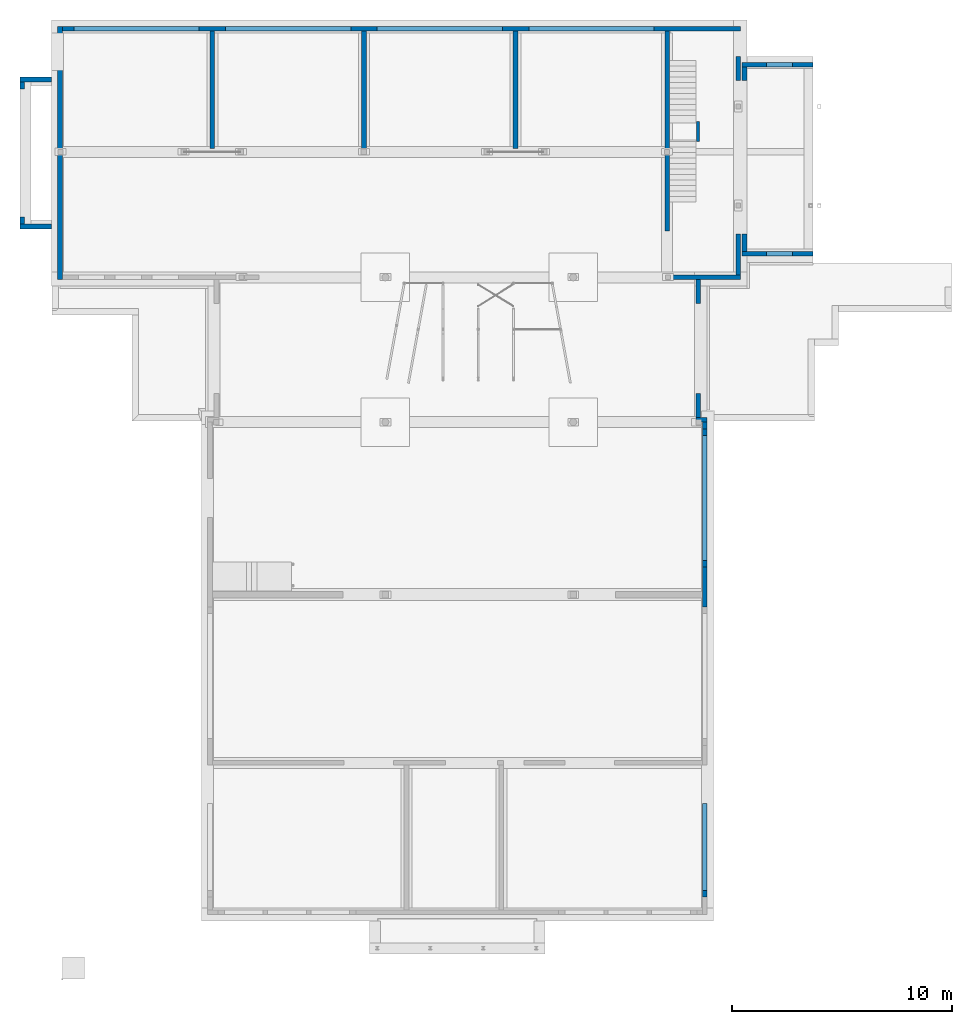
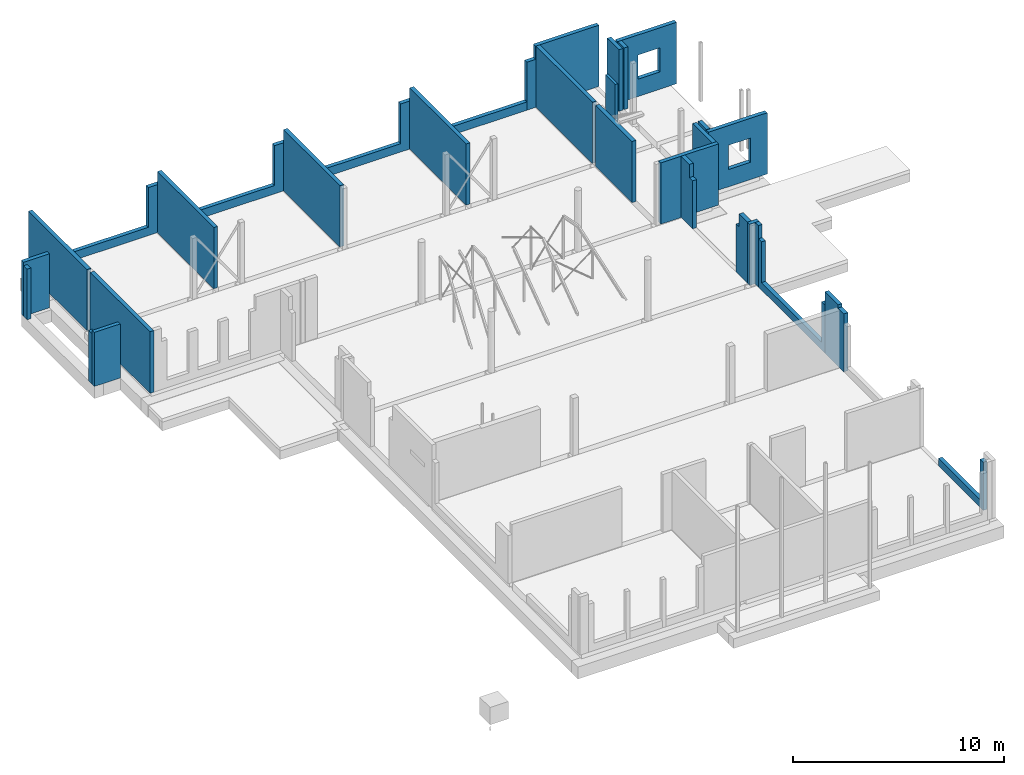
# One storey, part 15 of 17: 28 walls, 11 openings.
"""IFC2X3 building model written with IfcOpenShell, lengths in millimetres."""

from ifc_helpers import new_model, entity, si_unit, converted_unit, derived_unit, direction, frame, frame_2d, origin, origin_2d_with_axis, place, context, subcontext, project, spatial, polyline, rectangle, extrude, clip, bounded_halfspace, faceted_brep, material, layer, layer_set, layer_usage, type_object, element, save


model = new_model("IFC2X3")

# Units and contexts
model_context = context("Model", 3, precision=0.01, world=origin(), true_north=direction((6.123031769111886e-17, 1.0)))
body_context = subcontext(model_context, "Body", "Model", "MODEL_VIEW")
ifc_project = project(units=[si_unit("LENGTHUNIT", "METRE", prefix="MILLI"), si_unit("AREAUNIT", "SQUARE_METRE", prefix="MILLI"), si_unit("VOLUMEUNIT", "CUBIC_METRE"), converted_unit("PLANEANGLEUNIT", "DEGREE", entity("IfcPlaneAngleMeasure", 0.017453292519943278), si_unit("PLANEANGLEUNIT", "RADIAN"), dimensions=[0, 0, 0, 0, 0, 0, 0]), si_unit("MASSUNIT", "GRAM", prefix="KILO"), derived_unit("MASSDENSITYUNIT", [(si_unit("MASSUNIT", "GRAM", prefix="KILO"), 1), (si_unit("LENGTHUNIT", "METRE"), -3)]), derived_unit("IONCONCENTRATIONUNIT", [(si_unit("MASSUNIT", "GRAM", prefix="KILO"), 1), (si_unit("LENGTHUNIT", "METRE"), -3)]), derived_unit("MOMENTOFINERTIAUNIT", [(si_unit("LENGTHUNIT", "METRE"), 4)]), si_unit("TIMEUNIT", "SECOND"), si_unit("FREQUENCYUNIT", "HERTZ"), si_unit("THERMODYNAMICTEMPERATUREUNIT", "DEGREE_CELSIUS"), derived_unit("THERMALTRANSMITTANCEUNIT", [(si_unit("MASSUNIT", "GRAM", prefix="KILO"), 1), (si_unit("THERMODYNAMICTEMPERATUREUNIT", "KELVIN"), -1), (si_unit("TIMEUNIT", "SECOND"), -3)]), derived_unit("THERMALCONDUCTANCEUNIT", [(si_unit("MASSUNIT", "GRAM", prefix="KILO"), 1), (si_unit("THERMODYNAMICTEMPERATUREUNIT", "KELVIN"), -1), (si_unit("TIMEUNIT", "SECOND"), -3), (si_unit("LENGTHUNIT", "METRE"), 1)]), derived_unit("VOLUMETRICFLOWRATEUNIT", [(si_unit("LENGTHUNIT", "METRE", prefix="DECI"), 3), (si_unit("TIMEUNIT", "SECOND"), -1)]), derived_unit("MASSFLOWRATEUNIT", [(si_unit("MASSUNIT", "GRAM", prefix="KILO"), 1), (si_unit("TIMEUNIT", "SECOND"), -1)]), derived_unit("ROTATIONALFREQUENCYUNIT", [(si_unit("TIMEUNIT", "SECOND"), -1)]), si_unit("ELECTRICCURRENTUNIT", "AMPERE"), si_unit("ELECTRICVOLTAGEUNIT", "VOLT"), si_unit("POWERUNIT", "WATT"), si_unit("FORCEUNIT", "NEWTON", prefix="KILO"), si_unit("ILLUMINANCEUNIT", "LUX"), si_unit("LUMINOUSFLUXUNIT", "LUMEN"), si_unit("LUMINOUSINTENSITYUNIT", "CANDELA"), si_unit("ENERGYUNIT", "JOULE"), derived_unit("USERDEFINED", [(si_unit("MASSUNIT", "GRAM", prefix="KILO"), -1), (si_unit("LENGTHUNIT", "METRE"), -2), (si_unit("TIMEUNIT", "SECOND"), 3), (si_unit("LUMINOUSFLUXUNIT", "LUMEN"), 1)]), derived_unit("USERDEFINED", [(si_unit("MASSUNIT", "GRAM", prefix="KILO"), 1), (si_unit("TIMEUNIT", "SECOND"), -3), (si_unit("LENGTHUNIT", "METRE"), 3), (si_unit("ELECTRICCURRENTUNIT", "AMPERE"), -2)]), derived_unit("SOUNDPOWERUNIT", [(si_unit("MASSUNIT", "GRAM", prefix="KILO"), 1), (si_unit("TIMEUNIT", "SECOND"), -3), (si_unit("LENGTHUNIT", "METRE"), 2)]), derived_unit("SOUNDPRESSUREUNIT", [(si_unit("MASSUNIT", "GRAM", prefix="KILO"), 1), (si_unit("LENGTHUNIT", "METRE"), -1), (si_unit("TIMEUNIT", "SECOND"), -2)]), derived_unit("LINEARVELOCITYUNIT", [(si_unit("LENGTHUNIT", "METRE"), 1), (si_unit("TIMEUNIT", "SECOND"), -1)]), si_unit("PRESSUREUNIT", "PASCAL"), derived_unit("USERDEFINED", [(si_unit("MASSUNIT", "GRAM", prefix="KILO"), 1), (si_unit("LENGTHUNIT", "METRE"), -2), (si_unit("TIMEUNIT", "SECOND"), -2)]), derived_unit("LINEARFORCEUNIT", [(si_unit("MASSUNIT", "GRAM", prefix="KILO"), 1), (si_unit("TIMEUNIT", "SECOND"), -2)]), derived_unit("PLANARFORCEUNIT", [(si_unit("MASSUNIT", "GRAM", prefix="KILO"), 1), (si_unit("LENGTHUNIT", "METRE"), -1), (si_unit("TIMEUNIT", "SECOND"), -2)]), derived_unit("SPECIFICHEATCAPACITYUNIT", [(si_unit("THERMODYNAMICTEMPERATUREUNIT", "KELVIN"), -1), (si_unit("LENGTHUNIT", "METRE"), 2), (si_unit("TIMEUNIT", "SECOND"), -2)]), derived_unit("HEATFLUXDENSITYUNIT", [(si_unit("MASSUNIT", "GRAM", prefix="KILO"), 1), (si_unit("TIMEUNIT", "SECOND"), -3)]), derived_unit("HEATINGVALUEUNIT", [(si_unit("LENGTHUNIT", "METRE"), 2), (si_unit("TIMEUNIT", "SECOND"), -2)]), derived_unit("VAPORPERMEABILITYUNIT", [(si_unit("LENGTHUNIT", "METRE"), -1), (si_unit("TIMEUNIT", "SECOND"), 1)]), derived_unit("DYNAMICVISCOSITYUNIT", [(si_unit("MASSUNIT", "GRAM", prefix="KILO"), 1), (si_unit("TIMEUNIT", "SECOND"), -1), (si_unit("LENGTHUNIT", "METRE"), -1)]), derived_unit("THERMALEXPANSIONCOEFFICIENTUNIT", [(si_unit("THERMODYNAMICTEMPERATUREUNIT", "KELVIN"), -1)]), derived_unit("MODULUSOFELASTICITYUNIT", [(si_unit("MASSUNIT", "GRAM", prefix="KILO"), 1), (si_unit("LENGTHUNIT", "METRE"), -1), (si_unit("TIMEUNIT", "SECOND"), -2)]), derived_unit("ISOTHERMALMOISTURECAPACITYUNIT", [(si_unit("MASSUNIT", "GRAM", prefix="KILO"), -1), (si_unit("LENGTHUNIT", "METRE"), 3)]), derived_unit("MOISTUREDIFFUSIVITYUNIT", [(si_unit("TIMEUNIT", "SECOND"), -1), (si_unit("LENGTHUNIT", "METRE"), 2)]), derived_unit("MASSPERLENGTHUNIT", [(si_unit("MASSUNIT", "GRAM", prefix="KILO"), 1), (si_unit("LENGTHUNIT", "METRE"), -1)]), derived_unit("THERMALRESISTANCEUNIT", [(si_unit("MASSUNIT", "GRAM", prefix="KILO"), -1), (si_unit("TIMEUNIT", "SECOND"), 3), (si_unit("THERMODYNAMICTEMPERATUREUNIT", "KELVIN"), 1)]), derived_unit("ACCELERATIONUNIT", [(si_unit("LENGTHUNIT", "METRE"), 1), (si_unit("TIMEUNIT", "SECOND"), -2)]), derived_unit("ANGULARVELOCITYUNIT", [(si_unit("TIMEUNIT", "SECOND"), -1), (si_unit("PLANEANGLEUNIT", "RADIAN"), 1)]), derived_unit("LINEARSTIFFNESSUNIT", [(si_unit("MASSUNIT", "GRAM", prefix="KILO"), 1), (si_unit("TIMEUNIT", "SECOND"), -2)]), derived_unit("WARPINGCONSTANTUNIT", [(si_unit("LENGTHUNIT", "METRE"), 6)]), derived_unit("LINEARMOMENTUNIT", [(si_unit("MASSUNIT", "GRAM", prefix="KILO"), 1), (si_unit("LENGTHUNIT", "METRE"), 1), (si_unit("TIMEUNIT", "SECOND"), -2)]), derived_unit("TORQUEUNIT", [(si_unit("MASSUNIT", "GRAM", prefix="KILO"), 1), (si_unit("LENGTHUNIT", "METRE"), 2), (si_unit("TIMEUNIT", "SECOND"), -2)])], contexts=[model_context])

# Site, building, storey
site_placement = place(None, origin())
site = spatial("IfcSite", under=ifc_project, at=site_placement, Name="Default", CompositionType="ELEMENT")
building_placement = place(site_placement, origin())
building = spatial("IfcBuilding", under=site, at=building_placement, CompositionType="ELEMENT")
storey_placement = place(building_placement, frame((0.0, 0.0, -70.0)))
storey = spatial("IfcBuildingStorey", under=building, at=storey_placement, Name="F1 begg (bk ruwe vloer)", CompositionType="ELEMENT", Elevation=-69.99999999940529)

# Walls
ifc_material_1 = material(Name="Kalkzandsteen, lijmwerk CS12")
ifc_layer_1 = layer(ifc_material_1, 214.0)
ifc_layer_set_1 = layer_set([ifc_layer_1], Name="Basic Wall:bt_kzst 214")
ifc_layer_usage_1 = layer_usage(ifc_layer_set_1, "AXIS2", "POSITIVE", -107.0)
wall_type_1 = type_object("IfcWallType", Name="Basic Wall:bt_kzst 214", PredefinedType="STANDARD", material=ifc_layer_set_1)
wall_1_placement = place(storey_placement, frame((-107.0, 43358.57320506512, 0.0), z_axis=(0.0, 0.0, 1.0), x_axis=(0.0, -1.0, 0.0)))
element("IfcWallStandardCase", 1, at=wall_1_placement, inside=storey, type_object=wall_type_1, material=ifc_layer_usage_1, Name="Basic Wall:bt_kzst 214", ObjectType="Basic Wall:bt_kzst 214", context=body_context, shape_type="SweptSolid", body=[
    extrude(rectangle(XDim=5563.999999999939, YDim=214.0, at=frame_2d((2781.9999999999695, 7.105427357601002e-15), x_axis=(-1.0, 0.0))), origin(), (0.0, 0.0, 1.0), 3539.9999999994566),
])
ifc_layer_usage_2 = layer_usage(ifc_layer_set_1, "AXIS2", "NEGATIVE", 107.0)
wall_2_placement = place(storey_placement, frame((6825.000781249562, 43144.57320506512, 0.0), z_axis=(0.0, 0.0, 1.0), x_axis=(0.0, -1.0, 0.0)))
element("IfcWallStandardCase", 2, at=wall_2_placement, inside=storey, type_object=wall_type_1, material=ifc_layer_usage_2, Name="Basic Wall:bt_kzst 214", ObjectType="Basic Wall:bt_kzst 214", context=body_context, shape_type="SweptSolid", body=[
    extrude(rectangle(XDim=5349.348028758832, YDim=213.999999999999, at=frame_2d((2674.674014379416, 0.0), x_axis=(-1.0, 0.0))), origin(), (0.0, 0.0, 1.0), 3539.9999999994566),
])
wall_3_placement = place(storey_placement, frame((13725.000781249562, 43144.57320506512, 0.0), z_axis=(0.0, 0.0, 1.0), x_axis=(0.0, -1.0, 0.0)))
element("IfcWallStandardCase", 3, at=wall_3_placement, inside=storey, type_object=wall_type_1, material=ifc_layer_usage_2, Name="Basic Wall:bt_kzst 214", ObjectType="Basic Wall:bt_kzst 214", context=body_context, shape_type="SweptSolid", body=[
    extrude(rectangle(XDim=5349.348028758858, YDim=213.999999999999, at=frame_2d((2674.674014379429, 0.0), x_axis=(-1.0, 0.0))), origin(), (0.0, 0.0, 1.0), 3539.9999999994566),
])
wall_4_placement = place(storey_placement, frame((20624.984654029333, 43144.57320506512, 0.0), z_axis=(0.0, 0.0, 1.0), x_axis=(0.0, -1.0, 0.0)))
element("IfcWallStandardCase", 4, at=wall_4_placement, inside=storey, type_object=wall_type_1, material=ifc_layer_usage_2, Name="Basic Wall:bt_kzst 214", ObjectType="Basic Wall:bt_kzst 214", context=body_context, shape_type="SweptSolid", body=[
    extrude(rectangle(XDim=5349.348028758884, YDim=214.00000000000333, at=frame_2d((2674.674014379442, 0.0), x_axis=(-1.0, 0.0))), origin(), (0.0, 0.0, 1.0), 3539.9999999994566),
])

# Wall, openings
wall_5_placement = place(storey_placement, frame((26925.411850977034, 43251.5732050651, 0.0)))
wall_5 = element("IfcWallStandardCase", 5, at=wall_5_placement, inside=storey, type_object=wall_type_1, material=ifc_layer_usage_2, Name="Basic Wall:bt_kzst 214", ObjectType="Basic Wall:bt_kzst 214", context=body_context, shape_type="SweptSolid", body=[
    extrude(rectangle(XDim=3938.5653439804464, YDim=214.00000000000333, at=frame_2d((1969.2826719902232, 0.0), x_axis=(-1.0, 0.0))), origin(), (0.0, 0.0, 1.0), 3539.9999999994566),
])
opening_1_placement = place(wall_5_placement, origin())
element("IfcOpeningElement", 6, at=opening_1_placement, cuts=wall_5, Name="Basic Wall:bt_kzst 214", ObjectType="Opening", context=body_context, shape_type="SweptSolid", body=[
    extrude(rectangle(XDim=1222.00000000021, YDim=470.29999999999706, at=frame_2d((-2.8421709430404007e-13, 0.0), x_axis=(1.0, 0.0))), frame((235.14999999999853, -107.0, 3389.0), z_axis=(0.0, 1.0, 0.0), x_axis=(0.0, 0.0, -1.0)), (0.0, 0.0, 1.0), 214.00000000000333),
])
opening_2_placement = place(wall_5_placement, origin())
element("IfcOpeningElement", 7, at=opening_2_placement, cuts=wall_5, Name="Basic Wall:bt_kzst 214", ObjectType="Opening", context=body_context, shape_type="SweptSolid", body=[
    extrude(rectangle(XDim=2295.0, YDim=5700.301691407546, at=frame_2d((-2.2737367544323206e-12, -1.1368683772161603e-13), x_axis=(0.0, 1.0))), frame((-2848.706021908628, -1631.0, 1630.5000000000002), z_axis=(0.0, 1.0, 0.0), x_axis=(1.0, 0.0, 0.0)), (0.0, 0.0, 1.0), 3048.0),
])

# Walls
wall_6_placement = place(storey_placement, frame((27524.979520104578, 43144.57320506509, 0.0), z_axis=(0.0, 0.0, 1.0), x_axis=(0.0, -1.0, 0.0)))
element("IfcWallStandardCase", 8, at=wall_6_placement, inside=storey, type_object=wall_type_1, material=ifc_layer_usage_2, Name="Basic Wall:bt_kzst 214", ObjectType="Basic Wall:bt_kzst 214", context=body_context, shape_type="SweptSolid", body=[
    extrude(rectangle(XDim=5350.000000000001, YDim=214.00000000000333, at=frame_2d((2675.0000000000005, 0.0), x_axis=(-1.0, 0.0))), origin(), (0.0, 0.0, 1.0), 3539.9999999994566),
])
wall_7_placement = place(storey_placement, frame((29338.98577009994, 25451.57781815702, 0.0), z_axis=(0.0, 0.0, 1.0), x_axis=(-1.0, 0.0, 0.0)))
element("IfcWallStandardCase", 9, at=wall_7_placement, inside=storey, type_object=wall_type_1, material=ifc_layer_usage_1, Name="Basic Wall:bt_kzst 214", ObjectType="Basic Wall:bt_kzst 214", context=body_context, shape_type="SweptSolid", body=[
    extrude(rectangle(XDim=514.0067257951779, YDim=214.00000000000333, at=frame_2d((257.00336289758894, 0.0), x_axis=(-1.0, 0.0))), origin(), (0.0, 0.0, 1.0), 3539.9999999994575),
])

# Wall, opening
wall_8_placement = place(storey_placement, frame((28931.979776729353, 25558.57745194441, 0.0), z_axis=(0.0, 0.0, 1.0), x_axis=(3.4225477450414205e-06, 1.0, 0.0)))
wall_8 = element("IfcWallStandardCase", 10, at=wall_8_placement, inside=storey, type_object=wall_type_1, material=ifc_layer_usage_1, Name="Basic Wall:bt_kzst 214", ObjectType="Basic Wall:bt_kzst 214", context=body_context, shape_type="SweptSolid", body=[
    extrude(rectangle(XDim=1082.7513124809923, YDim=214.0000000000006, at=frame_2d((541.3756562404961, -8.881784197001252e-13), x_axis=(-1.0, 0.0))), origin(), (0.0, 0.0, 1.0), 3539.9999999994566),
])
opening_3_placement = place(wall_8_placement, origin())
element("IfcOpeningElement", 11, at=opening_3_placement, cuts=wall_8, Name="Basic Wall:bt_kzst 214", ObjectType="Opening", context=body_context, shape_type="SweptSolid", body=[
    extrude(rectangle(XDim=762.0000000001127, YDim=299.01434239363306, at=origin_2d_with_axis()), frame((933.2441412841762, -107.0, 3159.0), z_axis=(0.0, 1.0, 0.0), x_axis=(0.0, 0.0, -1.0)), (0.0, 0.0, 1.0), 213.999999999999),
])

# Walls
wall_9_placement = place(storey_placement, frame((27712.885853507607, 31937.57320506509, 0.0)))
element("IfcWallStandardCase", 12, at=wall_9_placement, inside=storey, type_object=wall_type_1, material=ifc_layer_usage_1, Name="Basic Wall:bt_kzst 214", ObjectType="Basic Wall:bt_kzst 214", context=body_context, shape_type="SweptSolid", body=[
    extrude(rectangle(XDim=3151.0913414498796, YDim=214.00000000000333, at=frame_2d((1575.5456707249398, -1.2079226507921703e-13), x_axis=(-1.0, 0.0))), origin(), (0.0, 0.0, 1.0), 3539.9999999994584),
])
wall_10_placement = place(storey_placement, frame((30756.97719495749, 32044.573205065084, 0.0), z_axis=(0.0, 0.0, 1.0), x_axis=(0.0, 1.0, 0.0)))
element("IfcWallStandardCase", 13, at=wall_10_placement, inside=storey, type_object=wall_type_1, material=ifc_layer_usage_1, Name="Basic Wall:bt_kzst 214", ObjectType="Basic Wall:bt_kzst 214", context=body_context, shape_type="SweptSolid", body=[
    extrude(rectangle(XDim=1857.758566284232, YDim=214.00000000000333, at=frame_2d((928.879283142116, 1.4210854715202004e-14), x_axis=(-1.0, 0.0))), origin(), (0.0, 0.0, 1.0), 3539.9999999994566),
])
wall_11_placement = place(storey_placement, frame((29231.985770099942, 25044.2323681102, 0.0), z_axis=(0.0, 0.0, 1.0), x_axis=(0.0, 1.0, 0.0)))
element("IfcWallStandardCase", 14, at=wall_11_placement, inside=storey, type_object=wall_type_1, material=ifc_layer_usage_1, Name="Basic Wall:bt_kzst 214", ObjectType="Basic Wall:bt_kzst 214", context=body_context, shape_type="SweptSolid", body=[
    extrude(rectangle(XDim=300.34545004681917, YDim=214.00000000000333, at=frame_2d((150.17272502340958, 0.0), x_axis=(-1.0, 0.0))), origin(), (0.0, 0.0, 1.0), 3539.9999999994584),
])
wall_12_placement = place(storey_placement, frame((27524.979520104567, 37494.57320506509, 0.0), z_axis=(0.0, 0.0, 1.0), x_axis=(0.0, -1.0, 0.0)))
element("IfcWallStandardCase", 15, at=wall_12_placement, inside=storey, type_object=wall_type_1, material=ifc_layer_usage_2, Name="Basic Wall:bt_kzst 214", ObjectType="Basic Wall:bt_kzst 214", context=body_context, shape_type="SweptSolid", body=[
    extrude(rectangle(XDim=3450.001488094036, YDim=214.00000000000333, at=frame_2d((1725.000744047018, 6.252776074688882e-13), x_axis=(-1.0, 0.0))), origin(), (0.0, 0.0, 1.0), 3539.9999999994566),
])
wall_13_placement = place(storey_placement, frame((-107.0, 37494.573205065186, 0.0), z_axis=(0.0, 0.0, 1.0), x_axis=(0.0, -1.0, 0.0)))
element("IfcWallStandardCase", 16, at=wall_13_placement, inside=storey, type_object=wall_type_1, material=ifc_layer_usage_1, Name="Basic Wall:bt_kzst 214", ObjectType="Basic Wall:bt_kzst 214", context=body_context, shape_type="SweptSolid", body=[
    extrude(rectangle(XDim=5664.0000399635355, YDim=214.0, at=frame_2d((2832.0000199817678, 7.105427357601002e-15), x_axis=(-1.0, 0.0))), origin(), (0.0, 0.0, 1.0), 3559.999999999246),
])

# Wall, opening
wall_14_placement = place(storey_placement, frame((28931.982072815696, 30745.545061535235, 0.0), z_axis=(0.0, 0.0, 1.0), x_axis=(1.2834553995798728e-06, 1.0, 0.0)))
wall_14 = element("IfcWallStandardCase", 17, at=wall_14_placement, inside=storey, type_object=wall_type_1, material=ifc_layer_usage_1, Name="Basic Wall:bt_kzst 214", ObjectType="Basic Wall:bt_kzst 214", context=body_context, shape_type="SweptSolid", body=[
    extrude(rectangle(XDim=1085.0282808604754, YDim=213.9999999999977, at=frame_2d((542.5141404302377, -6.465938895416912e-13), x_axis=(-1.0, 0.0))), origin(), (0.0, 0.0, 1.0), 3539.9999999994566),
])
opening_4_placement = place(wall_14_placement, origin())
element("IfcOpeningElement", 18, at=opening_4_placement, cuts=wall_14, Name="Basic Wall:bt_kzst 214", ObjectType="Opening", context=body_context, shape_type="SweptSolid", body=[
    extrude(rectangle(XDim=762.0000000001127, YDim=300.9666210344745, at=frame_2d((0.0, -2.1600499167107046e-12), x_axis=(1.0, 0.0))), frame((150.4833105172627, -107.0, 3159.0), z_axis=(0.0, 1.0, 0.0), x_axis=(0.0, 0.0, -1.0)), (0.0, 0.0, 1.0), 214.00000000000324),
])

# Walls
wall_15_placement = place(storey_placement, frame((29231.98577009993, 16938.625570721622, 0.0), z_axis=(0.0, 0.0, 1.0), x_axis=(0.0, 1.0, 0.0)))
element("IfcWallStandardCase", 19, at=wall_15_placement, inside=storey, type_object=wall_type_1, material=ifc_layer_usage_1, Name="Basic Wall:bt_kzst 214", ObjectType="Basic Wall:bt_kzst 214", context=body_context, shape_type="Clipping", body=[
    clip(clip(clip(extrude(rectangle(XDim=1805.3284634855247, YDim=214.00000000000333, at=frame_2d((902.6642317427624, 0.0), x_axis=(-1.0, 0.0))), origin(), (0.0, 0.0, 1.0), 3539.999999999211), bounded_halfspace(frame((0.0, -107.0, 3350.0), z_axis=(0.0, 0.0, -1.0), x_axis=(1.0, 0.0, 0.0)), True, frame((0.0, -107.0, 3350.0)), polyline([(0.0, 0.0), (555.9794423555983, 0.0), (555.9794423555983, 214.0), (0.0, 214.0), (0.0, 0.0)]))), bounded_halfspace(frame((555.9794423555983, -107.0, 3540.0), z_axis=(0.0, 0.0, -1.0), x_axis=(0.0, -1.0, 0.0)), True, frame((555.9794423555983, -107.0, 3540.0)), polyline([(0.0, 0.0), (1249.3490211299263, 0.0), (1249.3490211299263, 214.0), (0.0, 214.0), (0.0, 0.0)]))), bounded_halfspace(frame((0.0, -107.0, 3350.0), z_axis=(0.0, 0.0, -1.0), x_axis=(1.0, 0.0, 0.0)), True, frame((0.0, -107.0, 3350.0)), polyline([(0.0, 0.0), (555.9794423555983, 0.0), (555.9794423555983, 214.0), (0.0, 214.0), (0.0, 0.0)]))),
])
wall_16_placement = place(storey_placement, frame((30756.977194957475, 41994.90176341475, 0.0), z_axis=(0.0, 0.0, 1.0), x_axis=(0.0, -1.0, 0.0)))
element("IfcWallStandardCase", 20, at=wall_16_placement, inside=storey, type_object=wall_type_1, material=ifc_layer_usage_2, Name="Basic Wall:bt_kzst 214", ObjectType="Basic Wall:bt_kzst 214", context=body_context, shape_type="SweptSolid", body=[
    extrude(rectangle(XDim=1104.9104644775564, YDim=214.00000000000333, at=frame_2d((552.4552322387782, 1.1013412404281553e-12), x_axis=(-1.0, 0.0))), origin(), (0.0, 0.0, 1.0), 3559.999999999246),
])

# Wall, opening
wall_17_placement = place(storey_placement, frame((34149.977194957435, 41601.83352589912, 0.0), z_axis=(0.0, 0.0, 1.0), x_axis=(-1.0, 0.0, 0.0)))
wall_17 = element("IfcWallStandardCase", 21, at=wall_17_placement, inside=storey, type_object=wall_type_1, material=ifc_layer_usage_2, Name="Basic Wall:bt_kzst 214", ObjectType="Basic Wall:bt_kzst 214", context=body_context, shape_type="SweptSolid", body=[
    extrude(rectangle(XDim=3213.9811012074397, YDim=214.00000000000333, at=frame_2d((1606.9905506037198, -1.0942358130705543e-12), x_axis=(-1.0, 0.0))), origin(), (0.0, 0.0, 1.0), 3559.999999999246),
])
opening_5_placement = place(wall_17_placement, frame((34149.977194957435, 41601.83352589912, 0.0), z_axis=(0.0, 0.0, 1.0), x_axis=(-1.0, 0.0, 0.0)))
element("IfcOpeningElement", 22, at=opening_5_placement, cuts=wall_17, Name="Basic Wall:bt_kzst 214", ObjectType="Opening", context=body_context, shape_type="SweptSolid", body=[
    extrude(rectangle(XDim=1400.0, YDim=1200.0622289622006, at=frame_2d((0.0, 0.0), x_axis=(0.0, 1.0))), frame((32636.67253915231, 43232.83352589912, 1700.0), z_axis=(0.0, -1.0, 0.0), x_axis=(-1.0, 0.0, 0.0)), (0.0, 0.0, 1.0), 3048.0),
])

wall_18_placement = place(storey_placement, frame((34149.97719495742, 33007.414788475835, 0.0), z_axis=(0.0, 0.0, 1.0), x_axis=(-1.0, 0.0, 0.0)))
wall_18 = element("IfcWallStandardCase", 23, at=wall_18_placement, inside=storey, type_object=wall_type_1, material=ifc_layer_usage_1, Name="Basic Wall:bt_kzst 214", ObjectType="Basic Wall:bt_kzst 214", context=body_context, shape_type="SweptSolid", body=[
    extrude(rectangle(XDim=3213.9811012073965, YDim=214.00000000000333, at=frame_2d((1606.9905506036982, 1.0942358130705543e-12), x_axis=(-1.0, 0.0))), origin(), (0.0, 0.0, 1.0), 3539.9999999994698),
])
opening_6_placement = place(wall_18_placement, frame((34149.97719495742, 33007.414788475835, 0.0), z_axis=(0.0, 0.0, 1.0), x_axis=(-1.0, 0.0, 0.0)))
element("IfcOpeningElement", 24, at=opening_6_placement, cuts=wall_18, Name="Basic Wall:bt_kzst 214", ObjectType="Opening", context=body_context, shape_type="SweptSolid", body=[
    extrude(rectangle(XDim=1400.0, YDim=1200.0622289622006, at=frame_2d((0.0, 0.0), x_axis=(0.0, 1.0))), frame((32636.672539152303, 34424.414788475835, 1700.0), z_axis=(0.0, -1.0, 0.0), x_axis=(-1.0, 0.0, 0.0)), (0.0, 0.0, 1.0), 3048.0),
])

# Wall, openings
wall_19_placement = place(storey_placement, frame((0.0, 43251.57320506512, 0.0)))
wall_19 = element("IfcWallStandardCase", 25, at=wall_19_placement, inside=storey, type_object=wall_type_1, material=ifc_layer_usage_2, Name="Basic Wall:bt_kzst 214", ObjectType="Basic Wall:bt_kzst 214", context=body_context, shape_type="SweptSolid", body=[
    extrude(rectangle(XDim=26925.411850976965, YDim=214.00000000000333, at=frame_2d((13462.705925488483, 0.0), x_axis=(-1.0, 0.0))), origin(), (0.0, 0.0, 1.0), 2778.0000000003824),
])
opening_7_placement = place(wall_19_placement, frame((0.0, -43251.57320506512, 0.0)))
element("IfcOpeningElement", 26, at=opening_7_placement, cuts=wall_19, Name="Basic Wall:bt_kzst 214", ObjectType="Opening", context=body_context, shape_type="SweptSolid", body=[
    extrude(rectangle(XDim=2295.0, YDim=5700.301691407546, at=frame_2d((-2.2737367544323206e-12, -1.1368683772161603e-13), x_axis=(0.0, 1.0))), frame((24076.705829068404, 41620.57320506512, 1630.5000000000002), z_axis=(0.0, 1.0, 0.0), x_axis=(1.0, 0.0, 0.0)), (0.0, 0.0, 1.0), 3048.0),
])
opening_8_placement = place(wall_19_placement, frame((0.0, -43251.57320506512, 0.0)))
element("IfcOpeningElement", 27, at=opening_8_placement, cuts=wall_19, Name="Basic Wall:bt_kzst 214", ObjectType="Opening", context=body_context, shape_type="SweptSolid", body=[
    extrude(rectangle(XDim=2294.999999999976, YDim=5700.299494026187, at=frame_2d((0.0, -1.1368683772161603e-12), x_axis=(1.0, 0.0))), frame((10275.978598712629, 41834.57320506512, 1630.5000000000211), z_axis=(0.0, 1.0, 0.0), x_axis=(0.0, 0.0, -1.0)), (0.0, 0.0, 1.0), 3048.0),
])
opening_9_placement = place(wall_19_placement, frame((0.0, -43251.57320506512, 0.0)))
element("IfcOpeningElement", 28, at=opening_9_placement, cuts=wall_19, Name="Basic Wall:bt_kzst 214", ObjectType="Opening", context=body_context, shape_type="SweptSolid", body=[
    extrude(rectangle(XDim=2295.0, YDim=5700.30045538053, at=frame_2d((-1.1368683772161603e-13, -6.821210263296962e-13), x_axis=(1.0, 0.0))), frame((3375.6154184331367, 41834.57320506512, 1630.5000000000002), z_axis=(0.0, 1.0, 0.0), x_axis=(0.0, 0.0, -1.0)), (0.0, 0.0, 1.0), 3048.0),
])
opening_10_placement = place(wall_19_placement, frame((0.0, -43251.57320506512, 0.0)))
element("IfcOpeningElement", 29, at=opening_10_placement, cuts=wall_19, Name="Basic Wall:bt_kzst 214", ObjectType="Opening", context=body_context, shape_type="SweptSolid", body=[
    extrude(rectangle(XDim=2295.0, YDim=5700.300226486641, at=frame_2d((-1.1368683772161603e-13, -2.0463630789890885e-12), x_axis=(1.0, 0.0))), frame((17176.341664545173, 41834.57320506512, 1630.5000000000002), z_axis=(0.0, 1.0, 0.0), x_axis=(0.0, 0.0, -1.0)), (0.0, 0.0, 1.0), 3048.0),
])

# Wall, opening
wall_20_placement = place(storey_placement, frame((29231.985770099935, 18743.95403420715, 0.0), z_axis=(0.0, 0.0, 1.0), x_axis=(0.0, 1.0, 0.0)))
wall_20 = element("IfcWallStandardCase", 30, at=wall_20_placement, inside=storey, type_object=wall_type_1, material=ifc_layer_usage_1, Name="Basic Wall:bt_kzst 214", ObjectType="Basic Wall:bt_kzst 214", context=body_context, shape_type="SweptSolid", body=[
    extrude(rectangle(XDim=6300.278333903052, YDim=214.00000000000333, at=frame_2d((3150.139166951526, 0.0), x_axis=(-1.0, 0.0))), origin(), (0.0, 0.0, 1.0), 2777.9999999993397),
])
opening_11_placement = place(wall_20_placement, frame((-18743.95403420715, 29231.985770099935, 0.0), z_axis=(0.0, 0.0, 1.0), x_axis=(0.0, -1.0, 0.0)))
element("IfcOpeningElement", 31, at=opening_11_placement, cuts=wall_20, Name="Basic Wall:bt_kzst 214", ObjectType="Opening", context=body_context, shape_type="SweptSolid", body=[
    extrude(rectangle(XDim=2348.0000000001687, YDim=5700.301203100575, at=frame_2d((-1.1368683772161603e-12, -2.2737367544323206e-13), x_axis=(0.0, 1.0))), frame((30862.98577009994, 21893.094057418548, 1604.0), z_axis=(-1.0, 0.0, 0.0), x_axis=(0.0, 1.0, 0.0)), (0.0, 0.0, 1.0), 3048.0),
])

# Walls
wall_21_placement = place(storey_placement, frame((29231.98577009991, 3737.605013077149, 0.0), z_axis=(0.0, 0.0, 1.0), x_axis=(0.0, 1.0, 0.0)))
element("IfcWall", 32, at=wall_21_placement, inside=storey, type_object=wall_type_1, Name="Basic Wall:bt_kzst 214", ObjectType="Basic Wall:bt_kzst 214", context=body_context, shape_type="Brep", body=[
    faceted_brep([(0.0, -107.0, 2778.0), (0.0, -107.0, 0.0), (4258.913870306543, -107.0, 0.0), (4258.913870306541, -107.0, 430.0), (303.70555526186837, -107.0, 430.0), (303.70555526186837, -107.0, 2778.0), (0.0, 107.0, 0.0), (0.0, 107.0, 2778.0), (303.70555526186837, 107.0, 2778.0), (303.7055552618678, 107.0, 430.0), (4258.913870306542, 107.0, 430.0), (4258.913870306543, 107.0, 0.0)], [[[0, 1, 2, 3, 4, 5]], [[6, 7, 8, 9, 10, 11]], [[1, 6, 11, 2]], [[7, 0, 5, 8]], [[1, 0, 7, 6]], [[2, 11, 10, 3]], [[4, 9, 8, 5]], [[9, 4, 3, 10]]]),
])
wall_22_placement = place(storey_placement, frame((31042.996093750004, 41494.573205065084, 0.0), z_axis=(0.0, 0.0, 1.0), x_axis=(0.0, -1.0, 0.0)))
element("IfcWallStandardCase", 33, at=wall_22_placement, inside=storey, type_object=wall_type_1, material=ifc_layer_usage_2, Name="Basic Wall:bt_kzst 214", ObjectType="Basic Wall:bt_kzst 214", context=body_context, shape_type="SweptSolid", body=[
    extrude(rectangle(XDim=604.5819061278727, YDim=214.00000000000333, at=frame_2d((302.29095306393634, -8.384404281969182e-13), x_axis=(-1.0, 0.0))), origin(), (0.0, 0.0, 1.0), 3559.999999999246),
])
wall_23_placement = place(storey_placement, frame((31042.99609374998, 33902.33177134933, 0.0), z_axis=(0.0, 0.0, 1.0), x_axis=(0.0, -1.0, 0.0)))
element("IfcWallStandardCase", 34, at=wall_23_placement, inside=storey, type_object=wall_type_1, material=ifc_layer_usage_2, Name="Basic Wall:bt_kzst 214", ObjectType="Basic Wall:bt_kzst 214", context=body_context, shape_type="SweptSolid", body=[
    extrude(rectangle(XDim=787.9169828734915, YDim=214.00000000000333, at=frame_2d((393.95849143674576, -4.973799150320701e-14), x_axis=(-1.0, 0.0))), origin(), (0.0, 0.0, 1.0), 3559.999999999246),
])
ifc_material_2 = material(Name="Beton, prefab")
ifc_layer_2 = layer(ifc_material_2, 140.0)
ifc_layer_set_2 = layer_set([ifc_layer_2], Name="Basic Wall:bt_prefab betonwand d=140")
ifc_layer_usage_3 = layer_usage(ifc_layer_set_2, "AXIS2", "POSITIVE", -70.0)
wall_type_2 = type_object("IfcWallType", Name="Basic Wall:bt_prefab betonwand d=140", PredefinedType="STANDARD", material=ifc_layer_set_2)
wall_24_placement = place(storey_placement, frame((28918.51940937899, 39034.573205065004, 0.0), z_axis=(0.0, 0.0, 1.0), x_axis=(0.0, -1.0, 0.0)))
element("IfcWallStandardCase", 35, at=wall_24_placement, inside=storey, type_object=wall_type_2, material=ifc_layer_usage_3, Name="Basic Wall:bt_prefab betonwand d=140", ObjectType="Basic Wall:bt_prefab betonwand d=140", context=body_context, shape_type="SweptSolid", body=[
    extrude(rectangle(XDim=919.9999999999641, YDim=140.0000000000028, at=frame_2d((459.99999999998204, 0.0), x_axis=(-1.0, 0.0))), origin(), (0.0, 0.0, 1.0), 3869.9999999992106),
])
ifc_material_3 = material(Name="Metselwerk, steen")
ifc_layer_3 = layer(ifc_material_3, 100.0)
ifc_material_4 = material(Name="Default Wall")
ifc_layer_4 = layer(ifc_material_4, 10.0)
ifc_layer_5 = layer(ifc_material_3, 100.0)
ifc_layer_set_3 = layer_set([ifc_layer_3, ifc_layer_4, ifc_layer_5], Name="Basic Wall:bt_mw 210 (penant)")
ifc_layer_usage_4 = layer_usage(ifc_layer_set_3, "AXIS2", "NEGATIVE", 105.0)
wall_type_3 = type_object("IfcWallType", Name="Basic Wall:bt_mw 210 (penant)", PredefinedType="STANDARD", material=ifc_layer_set_3)
wall_25_placement = place(storey_placement, frame((-499.9996127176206, 40939.26402445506, -410.0), z_axis=(0.0, 0.0, 1.0), x_axis=(-1.0, 0.0, 0.0)))
element("IfcWallStandardCase", 36, at=wall_25_placement, inside=storey, type_object=wall_type_3, material=ifc_layer_usage_4, Name="Basic Wall:bt_mw 210 (penant)", ObjectType="Basic Wall:bt_mw 210 (penant)", context=body_context, shape_type="Clipping", body=[
    clip(extrude(rectangle(XDim=1425.0219966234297, YDim=210.00000000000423, at=frame_2d((712.5109983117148, 0.0), x_axis=(-1.0, 0.0))), origin(), (0.0, 0.0, 1.0), 3123.3363007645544), bounded_halfspace(frame((0.0, -105.0, 3123.336300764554), z_axis=(0.0, 0.0, -1.0), x_axis=(-1.0, 0.0, 0.0)), True, frame((0.0, -105.0, 3123.336300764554)), polyline([(0.0, 0.0), (1425.0219966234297, 0.0), (1425.02199662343, 210.0), (0.0, 210.0), (0.0, 0.0)]))),
])
wall_26_placement = place(storey_placement, frame((-1820.021609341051, 40504.24899158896, -410.0), z_axis=(0.0, 0.0, 1.0), x_axis=(0.0, 1.0, 0.0)))
element("IfcWallStandardCase", 37, at=wall_26_placement, inside=storey, type_object=wall_type_3, material=ifc_layer_usage_4, Name="Basic Wall:bt_mw 210 (penant)", ObjectType="Basic Wall:bt_mw 210 (penant)", context=body_context, shape_type="SweptSolid", body=[
    extrude(rectangle(XDim=330.01503286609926, YDim=209.9999999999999, at=frame_2d((165.00751643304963, -1.0658141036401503e-13), x_axis=(-1.0, 0.0))), origin(), (0.0, 0.0, 1.0), 2926.3363007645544),
])
ifc_layer_usage_5 = layer_usage(ifc_layer_set_3, "AXIS2", "POSITIVE", -105.0)
wall_27_placement = place(storey_placement, frame((-499.999612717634, 34248.93791289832, -410.0), z_axis=(0.0, 0.0, 1.0), x_axis=(-1.0, 0.0, 0.0)))
element("IfcWallStandardCase", 38, at=wall_27_placement, inside=storey, type_object=wall_type_3, material=ifc_layer_usage_5, Name="Basic Wall:bt_mw 210 (penant)", ObjectType="Basic Wall:bt_mw 210 (penant)", context=body_context, shape_type="Clipping", body=[
    clip(extrude(rectangle(XDim=1425.0219966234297, YDim=210.00000000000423, at=frame_2d((712.5109983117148, 6.608047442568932e-13), x_axis=(-1.0, 0.0))), origin(), (0.0, 0.0, 1.0), 3123.3363007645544), bounded_halfspace(frame((0.0, -105.0, 3123.336300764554), z_axis=(0.0, 0.0, -1.0), x_axis=(-1.0, 0.0, 0.0)), True, frame((0.0, -105.0, 3123.336300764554)), polyline([(0.0, 0.0), (1425.02199662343, 0.0), (1425.0219966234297, 210.0), (0.0, 210.0), (0.0, 0.0)]))),
])
wall_28_placement = place(storey_placement, frame((-1820.0216093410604, 34684.36556934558, -410.0), z_axis=(0.0, 0.0, 1.0), x_axis=(0.0, -1.0, 0.0)))
element("IfcWallStandardCase", 39, at=wall_28_placement, inside=storey, type_object=wall_type_3, material=ifc_layer_usage_5, Name="Basic Wall:bt_mw 210 (penant)", ObjectType="Basic Wall:bt_mw 210 (penant)", context=body_context, shape_type="SweptSolid", body=[
    extrude(rectangle(XDim=330.42765644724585, YDim=209.9999999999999, at=frame_2d((165.21382822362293, -2.1316282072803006e-14), x_axis=(-1.0, 0.0))), origin(), (0.0, 0.0, 1.0), 2926.3363007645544),
])

save(model, "model.ifc")
